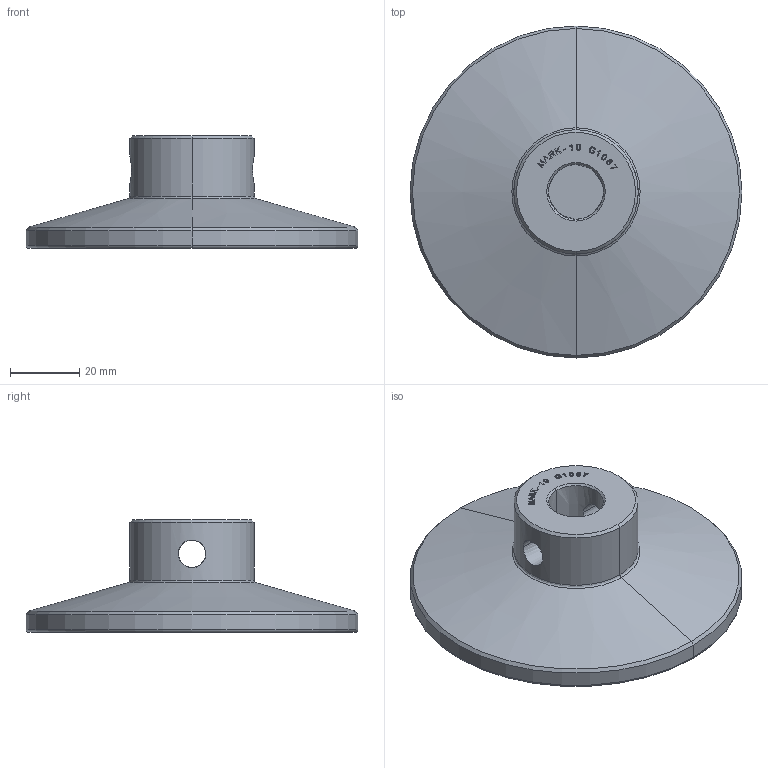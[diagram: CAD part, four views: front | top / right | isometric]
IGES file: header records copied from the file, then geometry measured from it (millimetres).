
Global section: file name: No Iges File Name specified; native system: Autodesk Inventor 2010; preprocessor: AutoDesk Inventor Iges Exporter R2010; author: mlampen; date: 20170420.121426; units: inch
Bounding box: 96.01 x 96.01 x 32.51 mm (x, y, z)
Volume: 86408.2 mm3; surface area: 20145.7 mm2
Topology: 1 solids, 1 shells, 563 faces, 1590 edges, 1056 vertices
Faces by surface type: plane 525, revolution 16, cylinder 12, cone 6, torus 2, bspline 2
